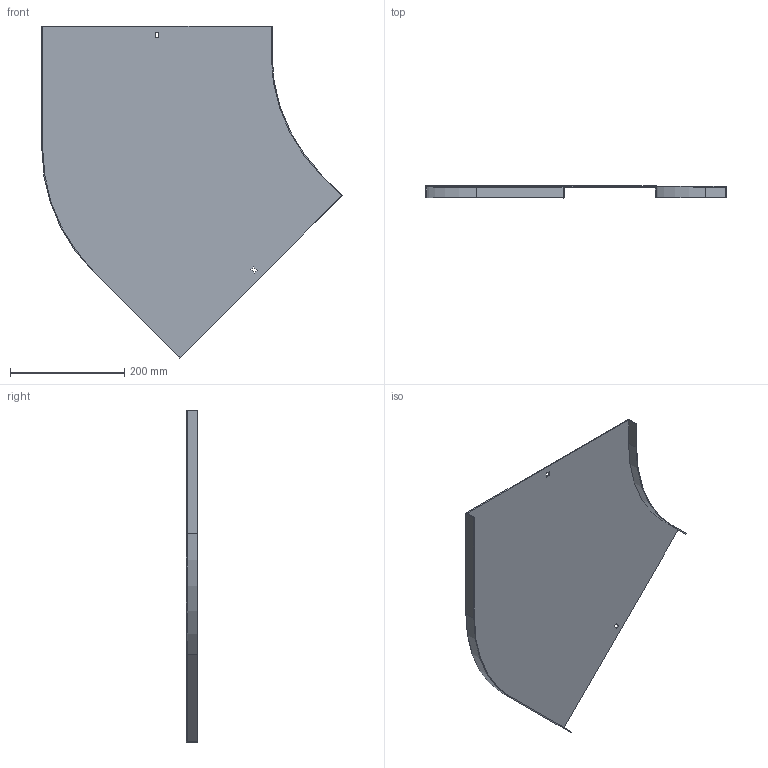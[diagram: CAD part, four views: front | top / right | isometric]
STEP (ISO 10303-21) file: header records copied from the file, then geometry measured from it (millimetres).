
FILE_DESCRIPTION (( 'STEP AP214' ), '1' );
FILE_NAME ('B2_11N3R400.step', '2025-02-21T10:51:07', ( '' ), ( '' ), 'SwSTEP 2.0', 'SolidWorks 2023', '' );
FILE_SCHEMA (( 'AUTOMOTIVE_DESIGN' ));
Length unit declared in the file: millimetre
Products named in the file (1): B2_11N3R400
Bounding box: 525.78 x 20 x 581.39 mm (x, y, z)
Volume: 338430.9 mm3; surface area: 454158.2 mm2
Topology: 1 solids, 1 shells, 26 faces, 72 edges, 48 vertices
Faces by surface type: plane 22, cylinder 4
Entity records: 855 total; most frequent: CARTESIAN_POINT 147, ORIENTED_EDGE 144, DIRECTION 134, EDGE_CURVE 72, LINE 64, VECTOR 64, VERTEX_POINT 48, AXIS2_PLACEMENT_3D 35
